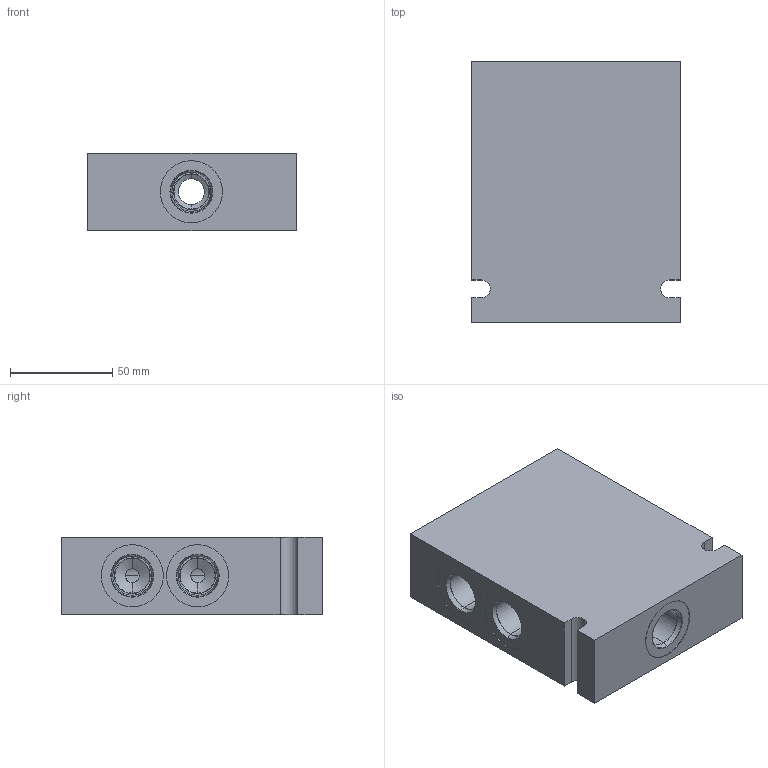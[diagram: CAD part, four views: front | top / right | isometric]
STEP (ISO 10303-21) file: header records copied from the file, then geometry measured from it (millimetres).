
FILE_DESCRIPTION((''),'2;1');
FILE_NAME('7022830','2007-11-12T',('KC2'),(''),'PRO/ENGINEER BY PARAMETRIC TECHNOLOGY CORPORATION, 2005310','PRO/ENGINEER BY PARAMETRIC TECHNOLOGY CORPORATION, 2005310','');
FILE_SCHEMA(('CONFIG_CONTROL_DESIGN'));
Length unit declared in the file: inch
Products named in the file (1): 7022830
Bounding box: 102.21 x 127.61 x 37.85 mm (x, y, z)
Volume: 426505.3 mm3; surface area: 57331 mm2
Topology: 1 solids, 1 shells, 156 faces, 343 edges, 196 vertices
Faces by surface type: cylinder 66, cone 46, plane 24, torus 20
Entity records: 4406 total; most frequent: DIRECTION 831, CARTESIAN_POINT 812, ORIENTED_EDGE 686, EDGE_CURVE 343, AXIS2_PLACEMENT_3D 342, VERTEX_POINT 196, CIRCLE 186, EDGE_LOOP 173
